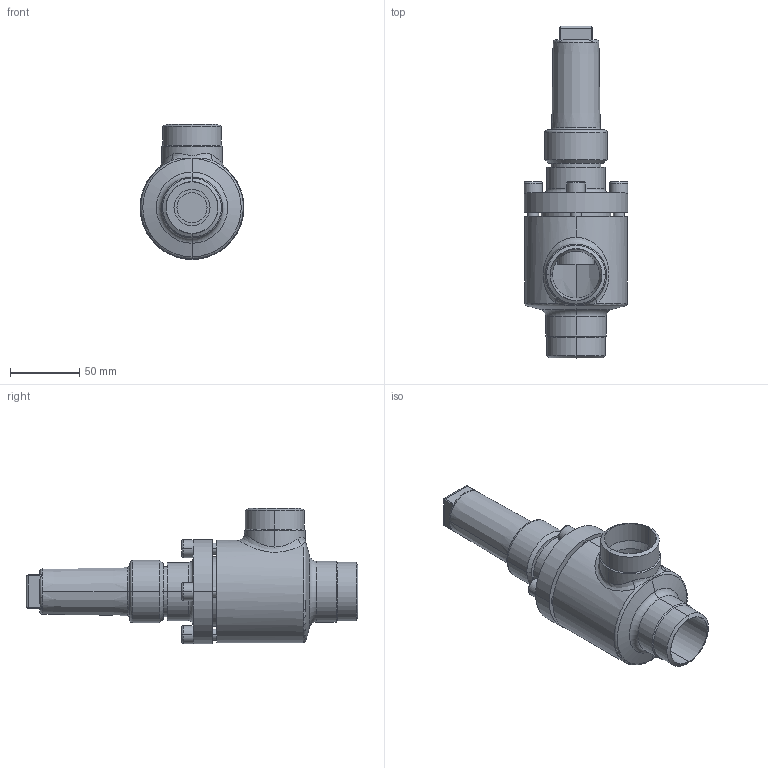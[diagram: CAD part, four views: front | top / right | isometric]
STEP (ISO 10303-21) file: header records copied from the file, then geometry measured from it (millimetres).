
FILE_DESCRIPTION (( 'STEP AP214' ), '1' );
FILE_NAME ('AVR26400D13-DN032_R1_PS40.STEP', '2006-04-27T13:42:12', ( 'Herr Grams' ), ( 'AWP GmbH' ), 'SwSTEP 2.0', 'SolidWorks 2002296', '' );
FILE_SCHEMA (( 'AUTOMOTIVE_DESIGN' ));
Length unit declared in the file: millimetre
Products named in the file (6): AVR26400D13-DN032_R1_PS40; AVR26300E13_Deck+Schr-DN25-32_Standard; Deckel26300E13-DN25-32_Standard; Zylinderschraube-DIN912_M 8x 25; Gehäuse16400-DN032_Standard; Kappe16402_DN010-32_Standard
Assembly tree (8 placements, depth 3):
  AVR26400D13-DN032_R1_PS40
    Gehäuse16400-DN032_Standard
    AVR26300E13_Deck+Schr-DN25-32_Standard
      Deckel26300E13-DN25-32_Standard
      Zylinderschraube-DIN912_M 8x 25  x4
    Kappe16402_DN010-32_Standard
Bounding box: 75 x 239.5 x 97.5 mm (x, y, z)
Volume: 365280.9 mm3; surface area: 93606.6 mm2
Topology: 7 solids, 7 shells, 209 faces, 458 edges, 285 vertices
Faces by surface type: cylinder 82, plane 70, cone 32, torus 23, bspline 2
Entity records: 14795 total; most frequent: CARTESIAN_POINT 10648, DIRECTION 812, ORIENTED_EDGE 688, EDGE_CURVE 344, AXIS2_PLACEMENT_3D 343, VERTEX_POINT 213, EDGE_LOOP 183, CIRCLE 178
